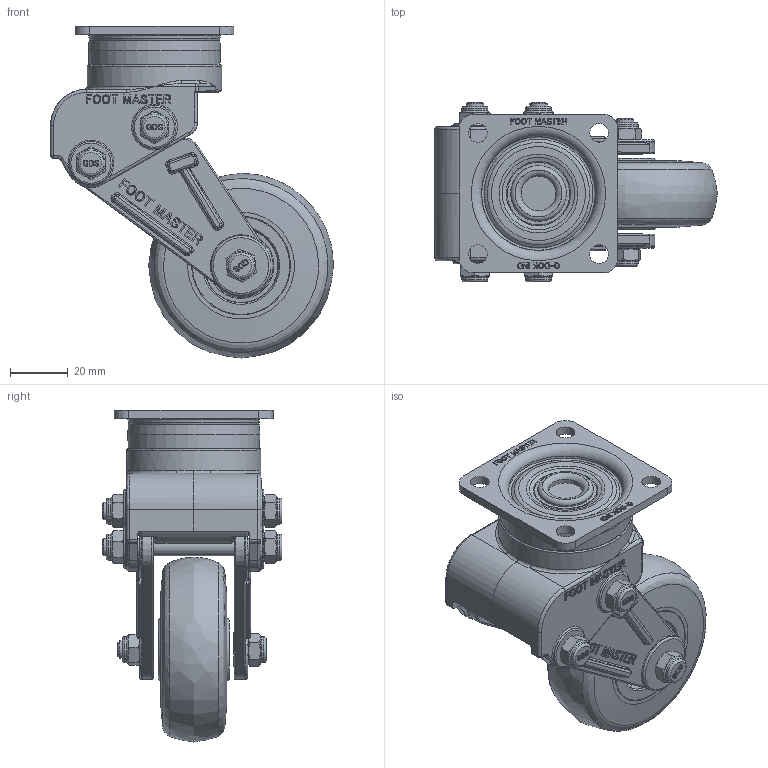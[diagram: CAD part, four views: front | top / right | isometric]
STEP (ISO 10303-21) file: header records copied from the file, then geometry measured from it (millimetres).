
FILE_DESCRIPTION(/* description */ (''),/* implementation_level */ '2;1');
FILE_NAME(/* name */ '\\192.168.10.38\지덕공유\1.기술연구소\2.연구개발 완료\완료_55.소형 충격흡수식캐스터_GDS-50.65\5.홈페이지 도면\3D\GDS-65-ASF-EUS-1.stp',/* time_stamp */ '2024-12-05T10:11:53+09:00',/* author */ ('admin'),/* organization */ (''),/* preprocessor_version */ 'ST-DEVELOPER v18.1',/* originating_system */ 'Autodesk Inventor 2021',/* authorisation */ '');
FILE_SCHEMA (('AUTOMOTIVE_DESIGN { 1 0 10303 214 3 1 1 }'));
Products named in the file (1): GDS-65-ASF-EUS
Bounding box: 98 x 62.3 x 115 mm (x, y, z)
Volume: 150284.5 mm3; surface area: 48936.8 mm2
Topology: 1 solids, 1 shells, 1977 faces, 5209 edges, 3354 vertices
Faces by surface type: plane 767, bspline 658, cylinder 263, cone 154, torus 119, sphere 16
Full cylindrical faces by diameter (mm): 6 x5, 6.5 x3, 8.8 x3, 9 x6, 12 x1, 17.216 x2, 18 x1, 19.3 x1, 20 x2, 22 x2, 22.784 x2, 30 x1, 43 x1, 44.5 x1, 46.5 x1
Entity records: 68984 total; most frequent: CARTESIAN_POINT 22090, ORIENTED_EDGE 10398, DIRECTION 7581, EDGE_CURVE 5199, VERTEX_POINT 3354, AXIS2_PLACEMENT_3D 2533, LINE 2515, VECTOR 2515
